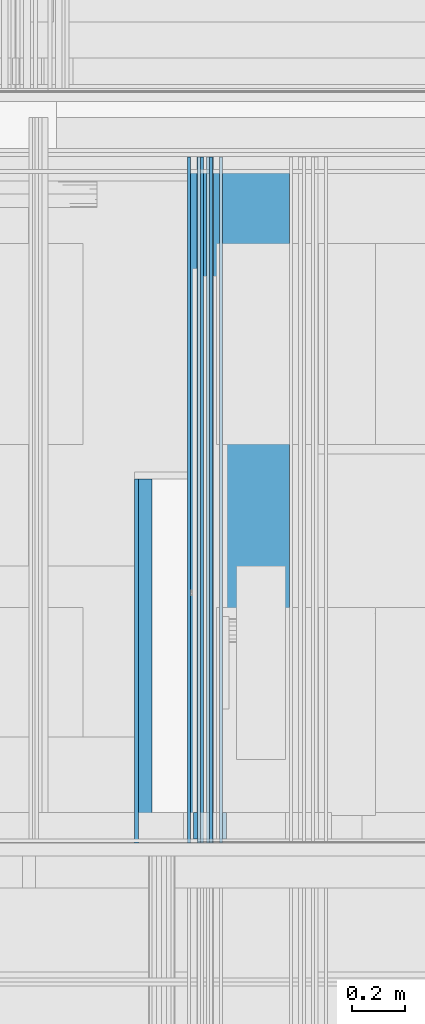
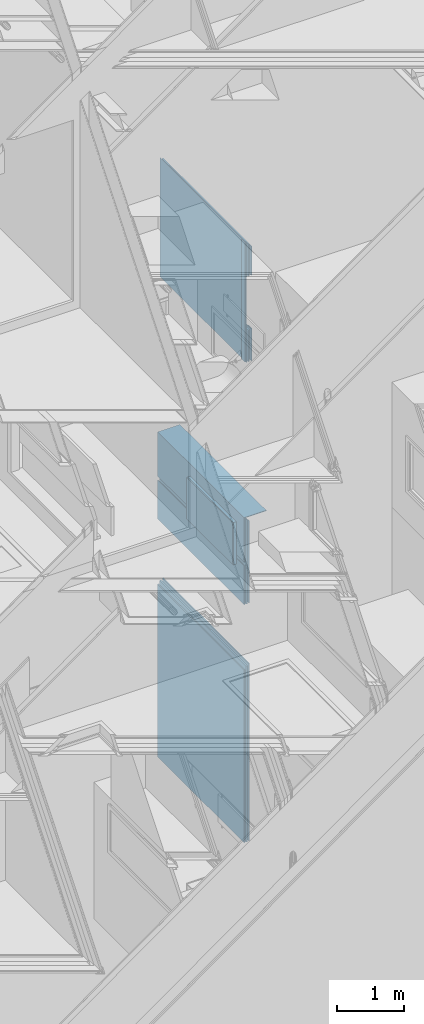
# One storey, part 125 of 583: 15 building element parts, 2 openings, 5 elements without a shape of their own.
"""IFC2X3 building model written with IfcOpenShell, lengths in metres."""

from ifc_helpers import new_model, entity, si_unit, converted_unit, derived_unit, money_unit, direction, frame, frame_2d, origin_with_axes, place, context, subcontext, project, spatial, polyline, rectangle, outline, extrude, material, type_object, element, aggregate, save


model = new_model("IFC2X3")

# Units and contexts
model_context = context("Model", 3, precision=1e-05, world=origin_with_axes(), true_north=direction((0.0, 1.0)))
body_context = subcontext(model_context, "Body", "Model", "MODEL_VIEW", scale=1.0)
ifc_project = project(units=[si_unit("LENGTHUNIT", "METRE"), si_unit("AREAUNIT", "SQUARE_METRE"), si_unit("VOLUMEUNIT", "CUBIC_METRE"), si_unit("ABSORBEDDOSEUNIT", "GRAY"), si_unit("AMOUNTOFSUBSTANCEUNIT", "MOLE"), si_unit("DOSEEQUIVALENTUNIT", "SIEVERT"), si_unit("ELECTRICCAPACITANCEUNIT", "FARAD"), si_unit("ELECTRICCHARGEUNIT", "COULOMB"), si_unit("ELECTRICCONDUCTANCEUNIT", "SIEMENS"), si_unit("ELECTRICCURRENTUNIT", "AMPERE"), si_unit("ELECTRICRESISTANCEUNIT", "OHM"), si_unit("ELECTRICVOLTAGEUNIT", "VOLT"), si_unit("ENERGYUNIT", "JOULE"), si_unit("FORCEUNIT", "NEWTON"), si_unit("FREQUENCYUNIT", "HERTZ"), si_unit("ILLUMINANCEUNIT", "LUX"), si_unit("INDUCTANCEUNIT", "HENRY"), si_unit("LUMINOUSFLUXUNIT", "LUMEN"), si_unit("LUMINOUSINTENSITYUNIT", "CANDELA"), si_unit("MAGNETICFLUXDENSITYUNIT", "TESLA"), si_unit("MAGNETICFLUXUNIT", "WEBER"), si_unit("MASSUNIT", "GRAM"), converted_unit("PLANEANGLEUNIT", "degree", entity("IfcReal", 0.0174532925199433), si_unit("PLANEANGLEUNIT", "RADIAN"), dimensions=[0, 0, 0, 0, 0, 0, 0]), si_unit("POWERUNIT", "WATT"), si_unit("PRESSUREUNIT", "PASCAL"), si_unit("RADIOACTIVITYUNIT", "BECQUEREL"), si_unit("SOLIDANGLEUNIT", "STERADIAN"), si_unit("THERMODYNAMICTEMPERATUREUNIT", "KELVIN"), si_unit("TIMEUNIT", "SECOND"), derived_unit("ACCELERATIONUNIT", [(si_unit("LENGTHUNIT", "METRE"), 1), (si_unit("TIMEUNIT", "SECOND"), -2)]), derived_unit("ANGULARVELOCITYUNIT", [(converted_unit("PLANEANGLEUNIT", "degree", entity("IfcReal", 0.0174532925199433), si_unit("PLANEANGLEUNIT", "RADIAN"), dimensions=[0, 0, 0, 0, 0, 0, 0]), 1), (si_unit("TIMEUNIT", "SECOND"), -1)]), derived_unit("CURVATUREUNIT", [(converted_unit("PLANEANGLEUNIT", "degree", entity("IfcReal", 0.0174532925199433), si_unit("PLANEANGLEUNIT", "RADIAN"), dimensions=[0, 0, 0, 0, 0, 0, 0]), 1), (si_unit("LENGTHUNIT", "METRE"), -1)]), derived_unit("DYNAMICVISCOSITYUNIT", [(si_unit("PRESSUREUNIT", "PASCAL"), 1), (si_unit("TIMEUNIT", "SECOND"), 1)]), derived_unit("HEATFLUXDENSITYUNIT", [(si_unit("POWERUNIT", "WATT"), 1), (si_unit("LENGTHUNIT", "METRE"), -2)]), derived_unit("HEATINGVALUEUNIT", [(si_unit("ENERGYUNIT", "JOULE"), 1), (si_unit("MASSUNIT", "GRAM"), -1)]), derived_unit("INTEGERCOUNTRATEUNIT", [(si_unit("TIMEUNIT", "SECOND"), -1)]), derived_unit("IONCONCENTRATIONUNIT", [(si_unit("MASSUNIT", "GRAM"), 1), (si_unit("VOLUMEUNIT", "CUBIC_METRE"), -1)]), derived_unit("ISOTHERMALMOISTURECAPACITYUNIT", [(si_unit("VOLUMEUNIT", "CUBIC_METRE"), 1), (si_unit("MASSUNIT", "GRAM"), -1)]), derived_unit("KINEMATICVISCOSITYUNIT", [(si_unit("AREAUNIT", "SQUARE_METRE"), 1), (si_unit("TIMEUNIT", "SECOND"), -1)]), derived_unit("LINEARFORCEUNIT", [(si_unit("FORCEUNIT", "NEWTON"), 1), (si_unit("LENGTHUNIT", "METRE"), -1)]), derived_unit("LINEARMOMENTUNIT", [(si_unit("FORCEUNIT", "NEWTON"), 1), (si_unit("LENGTHUNIT", "METRE"), -1)]), derived_unit("LINEARSTIFFNESSUNIT", [(si_unit("FORCEUNIT", "NEWTON"), 1), (si_unit("LENGTHUNIT", "METRE"), -1)]), derived_unit("LINEARVELOCITYUNIT", [(si_unit("LENGTHUNIT", "METRE"), 1), (si_unit("TIMEUNIT", "SECOND"), -1)]), derived_unit("LUMINOUSINTENSITYDISTRIBUTIONUNIT", [(si_unit("LUMINOUSINTENSITYUNIT", "CANDELA"), 1), (si_unit("LUMINOUSFLUXUNIT", "LUMEN"), -1)]), derived_unit("MASSDENSITYUNIT", [(si_unit("MASSUNIT", "GRAM"), 1), (si_unit("VOLUMEUNIT", "CUBIC_METRE"), -1)]), derived_unit("MASSFLOWRATEUNIT", [(si_unit("MASSUNIT", "GRAM"), 1), (si_unit("TIMEUNIT", "SECOND"), -1)]), derived_unit("MASSPERLENGTHUNIT", [(si_unit("MASSUNIT", "GRAM"), 1), (si_unit("LENGTHUNIT", "METRE"), -1)]), derived_unit("MODULUSOFELASTICITYUNIT", [(si_unit("FORCEUNIT", "NEWTON"), 1), (si_unit("AREAUNIT", "SQUARE_METRE"), -1)]), derived_unit("MODULUSOFLINEARSUBGRADEREACTIONUNIT", [(si_unit("FORCEUNIT", "NEWTON"), 1), (si_unit("LENGTHUNIT", "METRE"), -2)]), derived_unit("MODULUSOFROTATIONALSUBGRADEREACTIONUNIT", [(si_unit("FORCEUNIT", "NEWTON"), 1), (si_unit("LENGTHUNIT", "METRE"), 1)]), derived_unit("MODULUSOFSUBGRADEREACTIONUNIT", [(si_unit("FORCEUNIT", "NEWTON"), 1), (si_unit("VOLUMEUNIT", "CUBIC_METRE"), -1)]), derived_unit("MOISTUREDIFFUSIVITYUNIT", [(si_unit("VOLUMEUNIT", "CUBIC_METRE"), 1), (si_unit("TIMEUNIT", "SECOND"), -1)]), derived_unit("MOLECULARWEIGHTUNIT", [(si_unit("MASSUNIT", "GRAM"), 1), (si_unit("AMOUNTOFSUBSTANCEUNIT", "MOLE"), -1)]), derived_unit("PLANARFORCEUNIT", [(si_unit("FORCEUNIT", "NEWTON"), 1), (si_unit("LENGTHUNIT", "METRE"), -2)]), derived_unit("ROTATIONALFREQUENCYUNIT", [(si_unit("TIMEUNIT", "SECOND"), -1)]), derived_unit("ROTATIONALMASSUNIT", [(si_unit("MASSUNIT", "GRAM"), 1), (si_unit("LENGTHUNIT", "METRE"), 2)]), derived_unit("ROTATIONALSTIFFNESSUNIT", [(si_unit("FORCEUNIT", "NEWTON"), 1), (si_unit("LENGTHUNIT", "METRE"), 1), (converted_unit("PLANEANGLEUNIT", "degree", entity("IfcReal", 0.0174532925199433), si_unit("PLANEANGLEUNIT", "RADIAN"), dimensions=[0, 0, 0, 0, 0, 0, 0]), -1)]), derived_unit("SECTIONAREAINTEGRALUNIT", [(si_unit("LENGTHUNIT", "METRE"), 5)]), derived_unit("SECTIONMODULUSUNIT", [(si_unit("LENGTHUNIT", "METRE"), 3)]), derived_unit("SHEARMODULUSUNIT", [(si_unit("FORCEUNIT", "NEWTON"), 1), (si_unit("AREAUNIT", "SQUARE_METRE"), -1)]), derived_unit("SOUNDPOWERUNIT", [(si_unit("ENERGYUNIT", "JOULE"), 1), (si_unit("TIMEUNIT", "SECOND"), -1)]), derived_unit("SPECIFICHEATCAPACITYUNIT", [(si_unit("FORCEUNIT", "NEWTON"), 1), (si_unit("MASSUNIT", "GRAM"), -1), (si_unit("THERMODYNAMICTEMPERATUREUNIT", "KELVIN"), -1)]), derived_unit("TEMPERATUREGRADIENTUNIT", [(si_unit("THERMODYNAMICTEMPERATUREUNIT", "KELVIN"), 1), (si_unit("LENGTHUNIT", "METRE"), -1)]), derived_unit("THERMALADMITTANCEUNIT", [(si_unit("POWERUNIT", "WATT"), 1), (si_unit("AREAUNIT", "SQUARE_METRE"), -1), (si_unit("THERMODYNAMICTEMPERATUREUNIT", "KELVIN"), -1)]), derived_unit("THERMALCONDUCTANCEUNIT", [(si_unit("POWERUNIT", "WATT"), 1), (si_unit("LENGTHUNIT", "METRE"), -1), (si_unit("THERMODYNAMICTEMPERATUREUNIT", "KELVIN"), -1)]), derived_unit("THERMALEXPANSIONCOEFFICIENTUNIT", [(si_unit("THERMODYNAMICTEMPERATUREUNIT", "KELVIN"), -1)]), derived_unit("THERMALRESISTANCEUNIT", [(si_unit("AREAUNIT", "SQUARE_METRE"), 1), (si_unit("POWERUNIT", "WATT"), -1)]), derived_unit("THERMALTRANSMITTANCEUNIT", [(si_unit("POWERUNIT", "WATT"), 1), (si_unit("AREAUNIT", "SQUARE_METRE"), -1), (si_unit("THERMODYNAMICTEMPERATUREUNIT", "KELVIN"), -1)]), derived_unit("TORQUEUNIT", [(si_unit("FORCEUNIT", "NEWTON"), 1), (si_unit("LENGTHUNIT", "METRE"), 1)]), derived_unit("VAPORPERMEABILITYUNIT", [(si_unit("MASSUNIT", "GRAM"), 1), (si_unit("TIMEUNIT", "SECOND"), -1)]), derived_unit("VOLUMETRICFLOWRATEUNIT", [(si_unit("VOLUMEUNIT", "CUBIC_METRE"), 1), (si_unit("TIMEUNIT", "SECOND"), -1)]), derived_unit("WARPINGCONSTANTUNIT", [(si_unit("LENGTHUNIT", "METRE"), 6)]), derived_unit("WARPINGMOMENTUNIT", [(si_unit("FORCEUNIT", "NEWTON"), 1), (si_unit("LENGTHUNIT", "METRE"), 2)]), money_unit("GBP")], contexts=[model_context])

# Site, building, storey
site_placement = place(None, origin_with_axes())
site = spatial("IfcSite", under=ifc_project, at=site_placement, Name="Site", CompositionType="ELEMENT")
building_placement = place(site_placement, origin_with_axes())
building = spatial("IfcBuilding", under=site, at=building_placement, Name="Building01", CompositionType="ELEMENT")
storey_placement = place(building_placement, frame((0.0, 0.0, 20.78), z_axis=(0.0, 0.0, 1.0), x_axis=(1.0, 0.0, 0.0)))
storey = spatial("IfcBuildingStorey", under=building, at=storey_placement, Name="RL", CompositionType="ELEMENT", Elevation=20.78)

# Wall, openings, building element parts
wall_type_1 = type_object("IfcWallType", Name="SHE_A-Walls_Type05a_Partition_95mm_tall", PredefinedType="NOTDEFINED")
wall_1_placement = place(storey_placement, frame((11.703124, 12.13, -11.69), z_axis=(0.0, 1.0, 0.0), x_axis=(0.0, 0.0, 1.0)))
wall_1 = element("IfcWall", 1, at=wall_1_placement, inside=storey, type_object=wall_type_1, Name="5A", ObjectType="SHE_A-Walls_Type05a_Partition_95mm_tall")
opening_1_placement = place(wall_1_placement, frame((0.621, 0.005, -0.015), z_axis=(0.0, 0.0, 1.0), x_axis=(1.0, 0.0, 0.0)))
element("IfcOpeningElement", 2, at=opening_1_placement, cuts=wall_1, Name="Opening", ObjectType="Opening", context=body_context, shape_type="SweptSolid", body=[
    extrude(rectangle(XDim=0.9, YDim=2.142, at=frame_2d((-0.45, 1.071), x_axis=(1.0, 0.0))), frame((0.0, -0.03, 0.0), z_axis=(0.0, 1.0, 0.0), x_axis=(-1.0, 0.0, 0.0)), (0.0, 0.0, 1.0), 0.06),
])
opening_2_placement = place(wall_1_placement, frame((0.579, 0.06, 0.0), z_axis=(0.0, 0.0, 1.0), x_axis=(1.0, 0.0, 0.0)))
element("IfcOpeningElement", 3, at=opening_2_placement, cuts=wall_1, Name="Opening", ObjectType="Opening", context=body_context, shape_type="SweptSolid", body=[
    extrude(rectangle(XDim=2.142, YDim=0.984, at=frame_2d((-0.492, 1.071), x_axis=(0.0, -1.0))), frame((0.0, -0.09, 0.0), z_axis=(0.0, 1.0, 0.0), x_axis=(-1.0, 0.0, 0.0)), (0.0, 0.0, 1.0), 0.18),
])
ifc_material_1 = material(Name="A_BSUK_Insulation")
placement_1 = place(wall_1_placement, origin_with_axes())
building_element_part_1 = element("IfcBuildingElementPart", 4, at=placement_1, material=ifc_material_1, Name="1", context=body_context, shape_type="SweptSolid", body=[
    extrude(rectangle(XDim=2.15, YDim=0.025, at=frame_2d((1.075, 0.0125), x_axis=(-1.0, 0.0))), origin_with_axes(), (0.0, 0.0, 1.0), 2.59),
])
ifc_material_2 = material(Name="A_BSUK_Walls_Timber")
building_element_part_2 = element("IfcBuildingElementPart", 5, at=placement_1, material=ifc_material_2, Name="2", context=body_context, shape_type="SweptSolid", body=[
    extrude(outline(polyline([(2.075, 0.075), (0.0, 0.075), (0.0, 0.06), (2.09, 0.06), (2.075, 0.075)])), frame((0.0, 0.0, 0.015), z_axis=(0.0, 0.0, 1.0), x_axis=(1.0, 0.0, 0.0)), (0.0, 0.0, 1.0), 0.1),
])
building_element_part_3 = element("IfcBuildingElementPart", 6, at=placement_1, material=ifc_material_2, Name="3", context=body_context, shape_type="SweptSolid", body=[
    extrude(outline(polyline([(2.185, -0.035), (0.0, -0.035), (0.0, -0.05), (2.2, -0.05), (2.185, -0.035)])), frame((0.0, 0.0, 0.015), z_axis=(0.0, 0.0, 1.0), x_axis=(1.0, 0.0, 0.0)), (0.0, 0.0, 1.0), 0.1),
])
ifc_material_3 = material(Name="A_BSUK_WallInternal_Finishes_Plasterboard")
building_element_part_4 = element("IfcBuildingElementPart", 7, at=placement_1, material=ifc_material_3, Name="4", context=body_context, shape_type="SweptSolid", body=[
    extrude(outline(polyline([(2.09, 0.06), (0.0, 0.06), (0.0, 0.048), (2.102, 0.048), (2.09, 0.06)])), origin_with_axes(), (0.0, 0.0, 1.0), 2.59),
])
building_element_part_5 = element("IfcBuildingElementPart", 8, at=placement_1, material=ifc_material_3, Name="5", context=body_context, shape_type="SweptSolid", body=[
    extrude(outline(polyline([(2.173, -0.023), (0.0, -0.023), (0.0, -0.035), (2.185, -0.035), (2.173, -0.023)])), origin_with_axes(), (0.0, 0.0, 1.0), 2.59),
])
aggregate(wall_1, [building_element_part_1, building_element_part_2, building_element_part_3, building_element_part_4, building_element_part_5])

# Wall, building element parts
wall_2_placement = place(storey_placement, frame((11.69067, 12.13, -20.462), z_axis=(0.0, 1.0, 0.0), x_axis=(0.0, 0.0, 1.0)))
wall_2 = element("IfcWall", 9, at=wall_2_placement, inside=storey, type_object=wall_type_1, Name="5A", ObjectType="SHE_A-Walls_Type05a_Partition_95mm_tall")
placement_2 = place(wall_2_placement, origin_with_axes())
building_element_part_6 = element("IfcBuildingElementPart", 10, at=placement_2, material=ifc_material_1, Name="1", context=body_context, shape_type="SweptSolid", body=[
    extrude(rectangle(XDim=3.216669, YDim=0.025, at=frame_2d((1.608334, -0.0125), x_axis=(-1.0, 0.0))), origin_with_axes(), (0.0, 0.0, 1.0), 2.59),
])
building_element_part_7 = element("IfcBuildingElementPart", 11, at=placement_2, material=ifc_material_3, Name="4", context=body_context, shape_type="SweptSolid", body=[
    extrude(outline(polyline([(3.168669, -0.048), (0.0, -0.048), (0.0, -0.06), (3.156669, -0.06), (3.168669, -0.048)])), origin_with_axes(), (0.0, 0.0, 1.0), 2.59),
])
building_element_part_8 = element("IfcBuildingElementPart", 12, at=placement_2, material=ifc_material_3, Name="5", context=body_context, shape_type="SweptSolid", body=[
    extrude(outline(polyline([(3.251669, 0.035), (0.0, 0.035), (0.0, 0.023), (3.239669, 0.023), (3.251669, 0.035)])), origin_with_axes(), (0.0, 0.0, 1.0), 2.59),
])
aggregate(wall_2, [building_element_part_6, building_element_part_7, building_element_part_8])

# Wall, building element part
wall_3_placement = place(storey_placement, frame((11.66567, 12.13, -14.550331), z_axis=(0.0, 1.0, 0.0), x_axis=(1.0, 0.0, 0.0)))
wall_3 = element("IfcWall", 13, at=wall_3_placement, inside=storey, type_object=wall_type_1, Name="5A", ObjectType="SHE_A-Walls_Type05a_Partition_95mm_tall")
building_element_part_9_placement = place(wall_3_placement, origin_with_axes())
building_element_part_9 = element("IfcBuildingElementPart", 14, at=building_element_part_9_placement, material=ifc_material_3, Name="5", context=body_context, shape_type="SweptSolid", body=[
    extrude(outline(polyline([(0.35, -0.023), (-0.023, -0.023), (-0.035, -0.035), (0.35, -0.035), (0.35, -0.023)])), origin_with_axes(), (0.0, 0.0, 1.0), 2.59),
])
aggregate(wall_3, [building_element_part_9])

# Wall, building element parts
wall_4_placement = place(storey_placement, frame((11.66567, 12.13, -16.110331), z_axis=(0.0, 1.0, 0.0), x_axis=(0.0, 0.0, 1.0)))
wall_4 = element("IfcWall", 15, at=wall_4_placement, inside=storey, type_object=wall_type_1, Name="5A", ObjectType="SHE_A-Walls_Type05a_Partition_95mm_tall")
placement_3 = place(wall_4_placement, origin_with_axes())
building_element_part_10 = element("IfcBuildingElementPart", 16, at=placement_3, material=ifc_material_1, Name="1", context=body_context, shape_type="SweptSolid", body=[
    extrude(outline(polyline([(1.535, 0.025), (0.0, 0.025), (0.0, 0.0), (1.56, 0.0), (1.535, 0.025)])), origin_with_axes(), (0.0, 0.0, 1.0), 2.59),
])
building_element_part_11 = element("IfcBuildingElementPart", 17, at=placement_3, material=ifc_material_3, Name="5", context=body_context, shape_type="SweptSolid", body=[
    extrude(outline(polyline([(1.5, 0.06), (0.0, 0.06), (0.0, 0.048), (1.512, 0.048), (1.5, 0.06)])), origin_with_axes(), (0.0, 0.0, 1.0), 2.59),
])
building_element_part_12 = element("IfcBuildingElementPart", 18, at=placement_3, material=ifc_material_3, Name="6", context=body_context, shape_type="SweptSolid", body=[
    extrude(rectangle(XDim=0.712, YDim=0.012, at=frame_2d((0.356, -0.029), x_axis=(-1.0, 0.0))), origin_with_axes(), (0.0, 0.0, 1.0), 2.59),
])
building_element_part_13 = element("IfcBuildingElementPart", 19, at=placement_3, material=ifc_material_3, Name="7", context=body_context, shape_type="SweptSolid", body=[
    extrude(outline(polyline([(1.583, -0.023), (0.783, -0.023), (0.783, -0.035), (1.595, -0.035), (1.583, -0.023)])), origin_with_axes(), (0.0, 0.0, 1.0), 2.59),
])
aggregate(wall_4, [building_element_part_10, building_element_part_11, building_element_part_12, building_element_part_13])

wall_type_2 = type_object("IfcWallType", Name="SHE_A-Walls_Type05c_PreWallShell_65mm", PredefinedType="NOTDEFINED")
wall_5_placement = place(storey_placement, frame((11.495672, 12.13, -15.315331), z_axis=(0.0, 1.0, 0.0), x_axis=(0.0, 0.0, 1.0)))
wall_5 = element("IfcWall", 20, at=wall_5_placement, inside=storey, type_object=wall_type_2, Name="5C", ObjectType="SHE_A-Walls_Type05c_PreWallShell_65mm")
ifc_material_4 = material(Name="A_BSUK_OpeningsClearance")
placement_4 = place(wall_5_placement, origin_with_axes())
building_element_part_14 = element("IfcBuildingElementPart", 21, at=placement_4, material=ifc_material_4, Name="1", context=body_context, shape_type="SweptSolid", body=[
    extrude(rectangle(XDim=0.775, YDim=0.05, at=frame_2d((0.3875, -0.025), x_axis=(-1.0, 0.0))), origin_with_axes(), (0.0, 0.0, 1.0), 1.375),
])
building_element_part_15 = element("IfcBuildingElementPart", 22, at=placement_4, material=ifc_material_2, Name="2", context=body_context, shape_type="SweptSolid", body=[
    extrude(rectangle(XDim=0.76, YDim=0.015, at=frame_2d((0.395, -0.0575), x_axis=(-1.0, 0.0))), origin_with_axes(), (0.0, 0.0, 1.0), 1.375),
])
aggregate(wall_5, [building_element_part_14, building_element_part_15])

save(model, "model.ifc")
